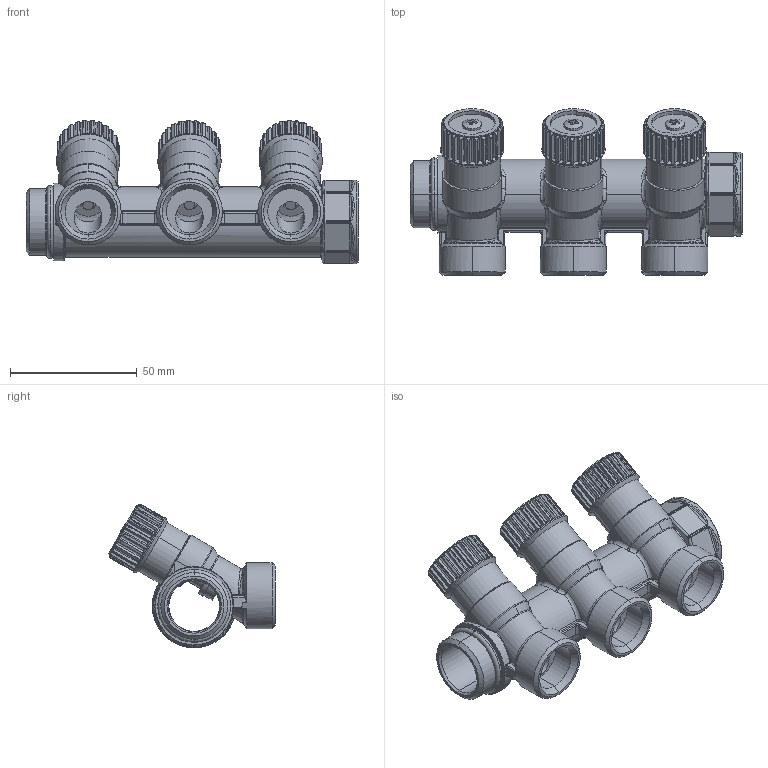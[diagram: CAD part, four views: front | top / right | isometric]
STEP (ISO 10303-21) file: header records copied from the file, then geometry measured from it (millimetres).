
FILE_DESCRIPTION (( 'STEP AP214' ), '1' );
FILE_NAME ('ADM103_Modul_rozszerzaj¹cy_dorozdzielacza_wody_pitnej_2210300_0_3D_AFRISO.STEP', '2025-01-23T09:46:04', ( '' ), ( '' ), 'SwSTEP 2.0', 'SolidWorks 2024', '' );
FILE_SCHEMA (( 'AUTOMOTIVE_DESIGN' ));
Length unit declared in the file: millimetre
Products named in the file (14): 68512803FRS; 68512803FRLN; Corpo Vitone Coll; 9446820; Asta vitone collettori; OR Corpo Vitone_montato; Otturatore Vitone Coll; ADM103_Modul_rozszerzający_dorozdzielacza_wody_pitnej_2210300_0_3D_AFRISO; OR Asta; Seeger a filo Vitone; 4761624; 3424693; Guarnizione piatta Otturatore; 9346615
Assembly tree (20 placements, depth 4):
  ADM103_Modul_rozszerzający_dorozdzielacza_wody_pitnej_2210300_0_3D_AFRISO
    68512803FRS
      9446820  x3
        Corpo Vitone Coll
        Otturatore Vitone Coll
        Asta vitone collettori
        Seeger a filo Vitone
        Guarnizione piatta Otturatore
        OR Asta
        OR Corpo Vitone_montato
      68512803FRLN
      9346615  x3
      4761624  x3
      3424693
Bounding box: 131 x 65.7 x 56.63 mm (x, y, z)
Volume: 75857.3 mm3; surface area: 65558.2 mm2
Topology: 32 solids, 32 shells, 2582 faces, 6491 edges, 4041 vertices
Faces by surface type: cylinder 907, plane 782, bspline 361, torus 306, cone 207, sphere 19
Entity records: 48743 total; most frequent: CARTESIAN_POINT 21720, ORIENTED_EDGE 5964, DIRECTION 5104, EDGE_CURVE 2982, AXIS2_PLACEMENT_3D 2117, VERTEX_POINT 1830, EDGE_LOOP 1280, ADVANCED_FACE 1214
